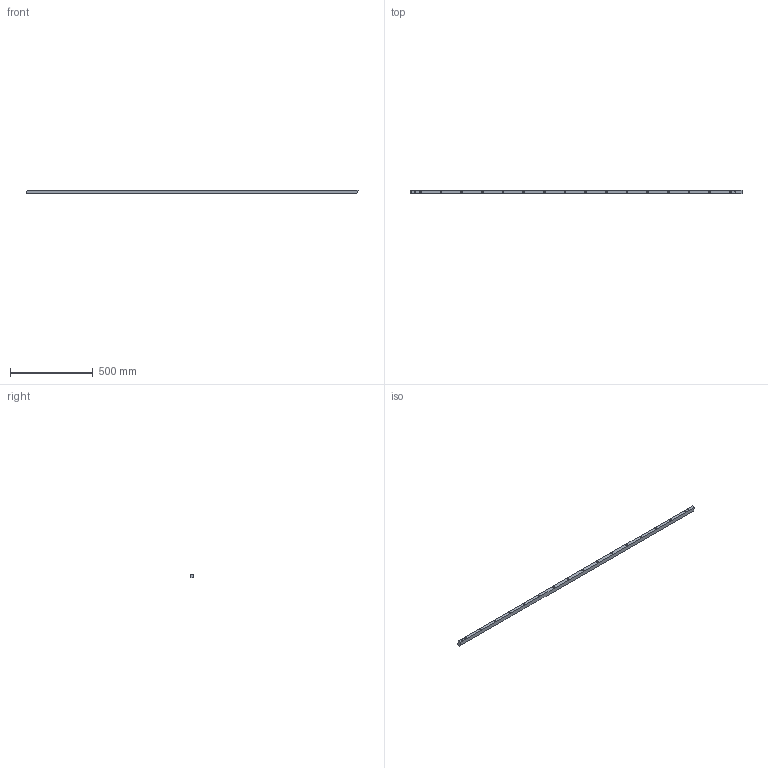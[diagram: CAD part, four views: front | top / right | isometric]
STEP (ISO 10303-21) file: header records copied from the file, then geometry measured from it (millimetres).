
FILE_DESCRIPTION(('STEP AP203'),'1');
FILE_NAME('246024.stp','2020-03-01T15:57:59',('TraceParts'),('TraceParts S.A.'),'Spatial InterOp 3D',' ',' ');
FILE_SCHEMA(('CONFIG_CONTROL_DESIGN'));
Length unit declared in the file: millimetre
Products named in the file (1): 1
Bounding box: 2008.51 x 19.5 x 24 mm (x, y, z)
Volume: 909663.7 mm3; surface area: 182023.7 mm2
Topology: 1 solids, 1 shells, 91 faces, 219 edges, 146 vertices
Faces by surface type: cylinder 68, plane 23
Entity records: 2845 total; most frequent: DIRECTION 539, CARTESIAN_POINT 457, ORIENTED_EDGE 438, AXIS2_PLACEMENT_3D 228, EDGE_CURVE 219, VERTEX_POINT 146, EDGE_LOOP 143, CIRCLE 136
